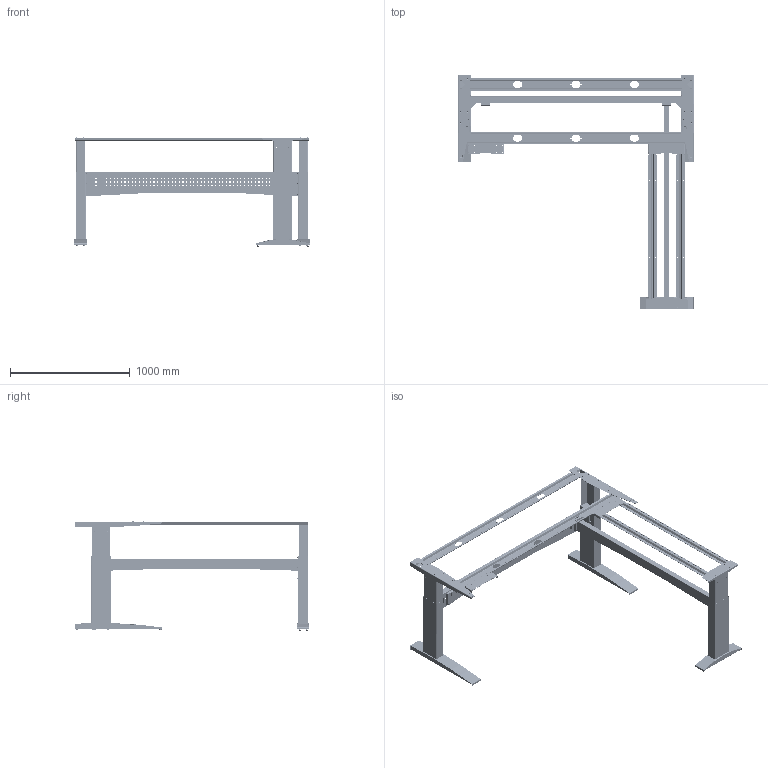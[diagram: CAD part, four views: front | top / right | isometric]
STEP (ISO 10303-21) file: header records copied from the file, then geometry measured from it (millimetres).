
FILE_DESCRIPTION (( 'STEP AP203' ), '1' );
FILE_NAME ('Tech-draw_501-11_XX196-196AR.STEP', '2019-09-24T12:06:45', ( '' ), ( '' ), 'SwSTEP 2.0', 'SolidWorks 2018', '' );
FILE_SCHEMA (( 'CONFIG_CONTROL_DESIGN' ));
Length unit declared in the file: millimetre
Products named in the file (64): 303560_black; 104000_black; 303930_black; 318550; 103360_black; 318500_black; 303590_black; 104100_wo wire; 112620_black; 304640; 318540; 103320_black; 113120_black; 304650_black; 303530; 103410_black; 305660_black; 304300; 103340_black; 112640_black; 318480; 103370_black; 113090_black1; 103470_black1; 304130; 303510; 303940_black; 103490_black; 345830; 304000; 103380_black1; 300600; 303430_black; 149590_501-11 XB196-196AR; 103350_black; 103490_black1; Weld_01; 103670_black; 303550; 303470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
Assembly tree (164 placements, depth 8):
  Tech-draw_501-11_XX196-196AR
    149590_501-11 XB196-196AR
      103680_black
        103670_black
          304300
          304130  x8
        300600  x6
      104000_black
        103990_black
          103390_black
            103350_black
              103320_black
                303540
                303550
                345830  x2
              303720_black
              303590_black
          103410_black
            103370_black
              303530
              303520
              Weld_09  x2
            303930_black  x6
        304650_black  x6
        303470  x4
        303560_black
        303430_black
        305680_black  x2
        104100_wo wire
          304640
      103490_black
        103470_black
          103380_black
            103340_black
              103320_black
                303540
                303550
                345830  x2
              303580_black
              303590_black
          103400_black
            103360_black
              303530
              303510
              Weld_09  x4
            303930_black  x2
        303940_black
        304650_black  x6
        303470  x4
        305660_black
        305680_black  x2
      113120_black
        112620_black
          304300
          318480  x2
          Weld_01  x4
          304130  x6
        300600  x6
      112660_black
        112640_black
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Bounding box: 1962.5 x 1958.8 x 910.5 mm (x, y, z)
Volume: 7584961 mm3; surface area: 9542956.5 mm2
Topology: 145 solids, 145 shells, 6724 faces, 18015 edges, 11727 vertices
Faces by surface type: plane 3416, cylinder 2614, bspline 306, torus 236, cone 144, sphere 8
Full cylindrical faces by diameter (mm): 1.5 x3, 3.2 x6, 3.3 x6, 4 x60, 4.2 x6, 4.5 x38, 5 x70, 5.5 x6, 6 x599, 6.2 x32, 6.4 x10, 6.5 x18, 6.8 x12, 7 x62, 8 x20, 9 x14, 10 x18, 13 x10, 26 x1, 27.6 x2, 28 x3, 30 x4
Entity records: 137019 total; most frequent: CARTESIAN_POINT 30489, DIRECTION 20507, ORIENTED_EDGE 19518, EDGE_CURVE 9759, AXIS2_PLACEMENT_3D 7045, VERTEX_POINT 6505, LINE 6417, VECTOR 6417
